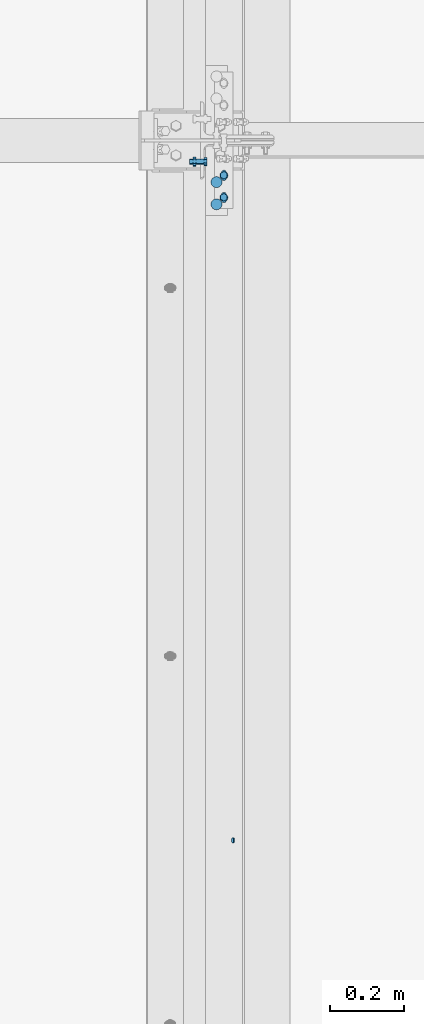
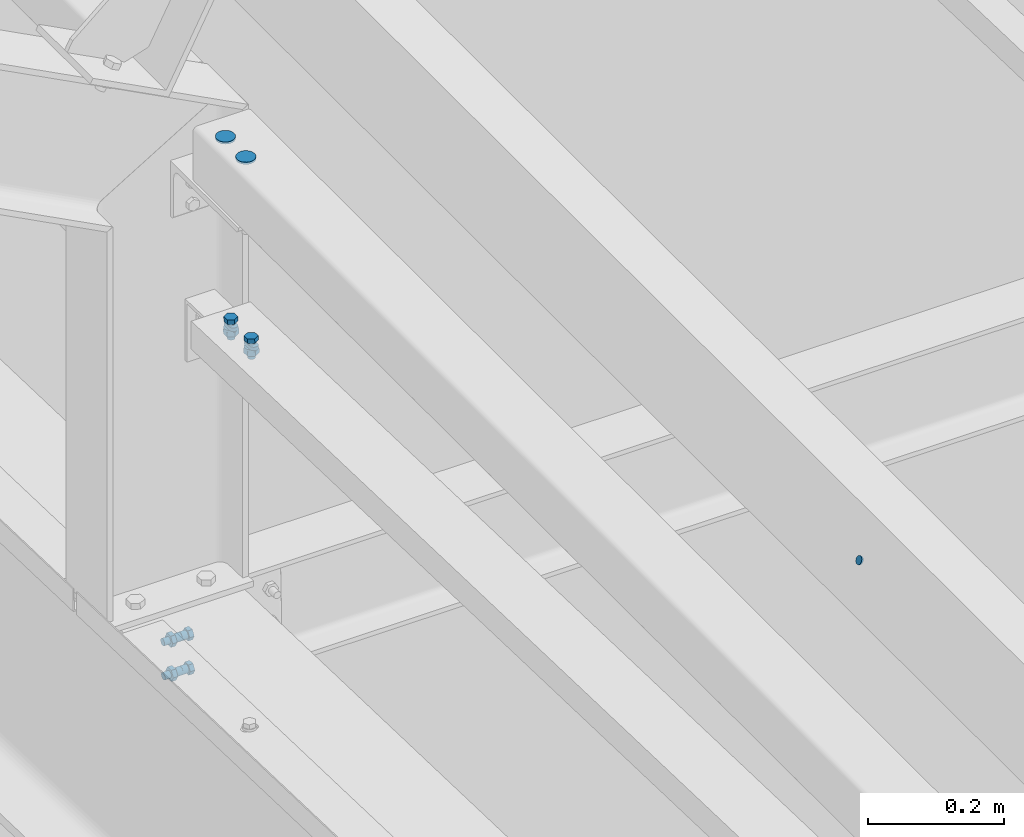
# One storey, part 279 of 362: 4 mechanical fasteners.
"""IFC2X3 building model written with IfcOpenShell, lengths in millimetres."""

from ifc_helpers import new_model, si_unit, frame, frame_2d, origin_with_axes, origin_2d_with_axis, place, context, subcontext, project, spatial, polyline, circle_curve, parameter, trimmed, segment, composite_curve, circle, outline, extrude, source, transform, mapped, material, type_object, element, save


model = new_model("IFC2X3")

# Units and contexts
model_context = context("Model", 3, precision=1e-05, world=origin_with_axes())
body_context = subcontext(model_context, "Body", "Model", "MODEL_VIEW")
ifc_project = project(units=[si_unit("LENGTHUNIT", "METRE", prefix="MILLI"), si_unit("AREAUNIT", "SQUARE_METRE"), si_unit("VOLUMEUNIT", "CUBIC_METRE"), si_unit("MASSUNIT", "GRAM", prefix="KILO"), si_unit("TIMEUNIT", "SECOND"), si_unit("PLANEANGLEUNIT", "RADIAN"), si_unit("SOLIDANGLEUNIT", "STERADIAN"), si_unit("THERMODYNAMICTEMPERATUREUNIT", "DEGREE_CELSIUS"), si_unit("LUMINOUSINTENSITYUNIT", "LUMEN")], contexts=[model_context])

# Site, building, storey
site_placement = place(None, origin_with_axes())
site = spatial("IfcSite", under=ifc_project, at=site_placement, Name="Undefined", CompositionType="ELEMENT")
building_placement = place(site_placement, origin_with_axes())
building = spatial("IfcBuilding", under=site, at=building_placement, Name="Undefined", CompositionType="ELEMENT")
storey_placement = place(building_placement, origin_with_axes())
storey = spatial("IfcBuildingStorey", under=building, at=storey_placement, Name="Undefined", CompositionType="ELEMENT", Elevation=0.0)

# Mechanical fasteners
ifc_material_1 = material(Name="6.8")
mechanical_fastener_type = type_object("IfcMechanicalFastenerType", Name="Bolt assembly")
shared_shape_1 = source(origin_with_axes(), body_context, "Body", "SweptSolid", [
    extrude(circle(Radius=7.0, at=origin_2d_with_axis()), frame((0.0, 0.0, 0.0), z_axis=(0.0, 1.0, 0.0), x_axis=(1.0, 0.0, 0.0)), (0.0, 0.0, 1.0), 3.1),
])
mechanical_fastener_1_placement = place(storey_placement, frame((19643.5016489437, 9500.0, 8857.28871371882), z_axis=(0.0, -1.0, 0.0), x_axis=(-0.463528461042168, 0.0, -0.886082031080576)))
element("IfcMechanicalFastener", 1, at=mechanical_fastener_1_placement, inside=storey, type_object=mechanical_fastener_type, material=ifc_material_1, Name="Bolt assembly", NominalDiameter=12.0, NominalLength=3.0, context=body_context, shape_type="MappedRepresentation", body=[
    mapped(shared_shape_1, transform((0.0, 0.0, 0.0))),
])
shared_shape_2 = source(origin_with_axes(), body_context, "Body", "SweptSolid", [
    extrude(circle(Radius=15.0, at=origin_2d_with_axis()), frame((0.0, 0.0, 0.0), z_axis=(0.0, 1.0, 0.0), x_axis=(1.0, 0.0, 0.0)), (0.0, 0.0, 1.0), 4.1),
])
mechanical_fastener_2_placement = place(storey_placement, frame((19599.9999999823, 11226.5, 8550.0), z_axis=(-1.0, 0.0, 0.0), x_axis=(0.0, 1.0, 0.0)))
element("IfcMechanicalFastener", 2, at=mechanical_fastener_2_placement, inside=storey, type_object=mechanical_fastener_type, material=ifc_material_1, Name="Bolt assembly", NominalDiameter=30.0, NominalLength=4.0, context=body_context, shape_type="MappedRepresentation", body=[
    mapped(shared_shape_2, transform((0.0, 0.0, 0.0))),
    mapped(shared_shape_2, transform((60.0, 0.0, 0.0))),
])
ifc_material_2 = material(Name="8.8-SB-ZINGUE")
shared_shape_3 = source(origin_with_axes(), body_context, "Body", "SweptSolid", [
    extrude(circle(Radius=7.0, at=origin_2d_with_axis()), frame((0.0, -3.89999843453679, 0.0), z_axis=(0.0, 1.0, 0.0), x_axis=(1.0, 0.0, 0.0)), (0.0, 0.0, 1.0), 4.0),
    extrude(outline(composite_curve([segment(polyline([(-7.0, 7.0), (7.0, 7.0)]), True, "CONTINUOUS"), segment(trimmed(circle_curve(frame_2d((7.0, 0.0), x_axis=(0.0, 1.0)), 7.0), [parameter(0.0)], [parameter(3.14159265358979)], False, "PARAMETER"), True, "CONTINUOUS"), segment(polyline([(7.0, -7.0), (-7.0, -7.0)]), True, "CONTINUOUS"), segment(trimmed(circle_curve(frame_2d((-7.0, 0.0), x_axis=(0.0, -1.0)), 7.0), [parameter(0.0)], [parameter(3.14159265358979)], False, "PARAMETER"), True, "DISCONTINUOUS")], self_intersect=False)), frame((0.0, -0.100011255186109, 0.0), z_axis=(0.0, 1.0, 0.0), x_axis=(1.0, 0.0, 0.0)), (0.0, 0.0, 1.0), 6.1),
    extrude(outline(polyline([(10.39230484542, 0.0), (5.19615242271, 9.00000000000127), (-5.19615242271, 9.00000000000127), (-10.39230484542, 0.0), (-5.19615242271, -9.00000000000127), (5.19615242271, -9.00000000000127), (10.39230484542, 0.0)])), frame((0.0, -11.9199984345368, 0.0), z_axis=(0.0, 1.0, 0.0), x_axis=(1.0, 0.0, 0.0)), (0.0, 0.0, 1.0), 7.92),
    extrude(circle(Radius=6.0, at=origin_2d_with_axis()), frame((0.0, -3.99999923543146, 0.0), z_axis=(0.0, 1.0, 0.0), x_axis=(1.0, 0.0, 0.0)), (0.0, 0.0, 1.0), 30.0),
    extrude(circle(Radius=10.8, at=origin_2d_with_axis()), frame((0.0, 6.0, 0.0), z_axis=(0.0, 1.0, 0.0), x_axis=(1.0, 0.0, 0.0)), (0.0, 0.0, 1.0), 3.96),
    extrude(outline(polyline([(11.5008173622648, 0.0), (5.7504086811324, 9.96000000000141), (-5.7504086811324, 9.96000000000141), (-11.5008173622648, 0.0), (-5.7504086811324, -9.96000000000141), (5.7504086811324, -9.96000000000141), (11.5008173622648, 0.0)])), frame((0.0, 9.9600084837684, 0.0), z_axis=(0.0, 1.0, 0.0), x_axis=(1.0, 0.0, 0.0)), (0.0, 0.0, 1.0), 7.92),
])
mechanical_fastener_3_placement = place(storey_placement, frame((19619.9999999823, 11245.0444201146, 8197.86935261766), z_axis=(-1.0, 0.0, 0.0), x_axis=(0.0, 0.99950644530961, -0.0314144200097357)))
element("IfcMechanicalFastener", 3, at=mechanical_fastener_3_placement, inside=storey, type_object=mechanical_fastener_type, material=ifc_material_2, Name="Bolt assembly", NominalDiameter=12.0, NominalLength=30.0, context=body_context, shape_type="MappedRepresentation", body=[
    mapped(shared_shape_3, transform((0.0, 0.0, 0.0))),
    mapped(shared_shape_3, transform((60.0, 0.0, 0.0))),
])
shared_shape_4 = source(origin_with_axes(), body_context, "Body", "SweptSolid", [
    extrude(circle(Radius=7.0, at=origin_2d_with_axis()), frame((0.0, -5.65000019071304, 0.0), z_axis=(0.0, 1.0, 0.0), x_axis=(1.0, 0.0, 0.0)), (0.0, 0.0, 1.0), 11.2),
    extrude(circle(Radius=7.0, at=origin_2d_with_axis()), frame((0.0, -15.9000004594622, 0.0), z_axis=(0.0, 1.0, 0.0), x_axis=(1.0, 0.0, 0.0)), (0.0, 0.0, 1.0), 10.0),
    extrude(outline(polyline([(10.39230484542, 0.0), (5.19615242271, 9.00000000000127), (-5.19615242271, 9.00000000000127), (-10.39230484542, 0.0), (-5.19615242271, -9.00000000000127), (5.19615242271, -9.00000000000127), (10.39230484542, 0.0)])), frame((0.0, -23.9200004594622, 0.0), z_axis=(0.0, 1.0, 0.0), x_axis=(1.0, 0.0, 0.0)), (0.0, 0.0, 1.0), 7.92),
    extrude(circle(Radius=6.0, at=origin_2d_with_axis()), frame((0.0, -16.0000004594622, 0.0), z_axis=(0.0, 1.0, 0.0), x_axis=(1.0, 0.0, 0.0)), (0.0, 0.0, 1.0), 40.0),
    extrude(outline(polyline([(11.5008173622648, 0.0), (5.7504086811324, 9.96000000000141), (-5.7504086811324, 9.96000000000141), (-11.5008173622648, 0.0), (-5.7504086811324, -9.96000000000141), (5.7504086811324, -9.96000000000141), (11.5008173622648, 0.0)])), frame((0.0, 5.55000018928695, 0.0), z_axis=(0.0, 1.0, 0.0), x_axis=(1.0, 0.0, 0.0)), (0.0, 0.0, 1.0), 7.92),
])
mechanical_fastener_4_placement = place(storey_placement, frame((19550.0, 11342.0341838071, 7603.51797534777), z_axis=(7.58071938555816e-11, 0.0314107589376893, 0.999506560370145), x_axis=(3.14103090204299e-11, 0.999506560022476, -0.0314107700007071)))
element("IfcMechanicalFastener", 4, at=mechanical_fastener_4_placement, inside=storey, type_object=mechanical_fastener_type, material=ifc_material_2, Name="Bolt assembly", NominalDiameter=12.0, NominalLength=40.0, context=body_context, shape_type="MappedRepresentation", body=[
    mapped(shared_shape_4, transform((0.0, 0.0, -30.0))),
    mapped(shared_shape_4, transform((0.0, 0.0, 30.0))),
])

save(model, "model.ifc")
